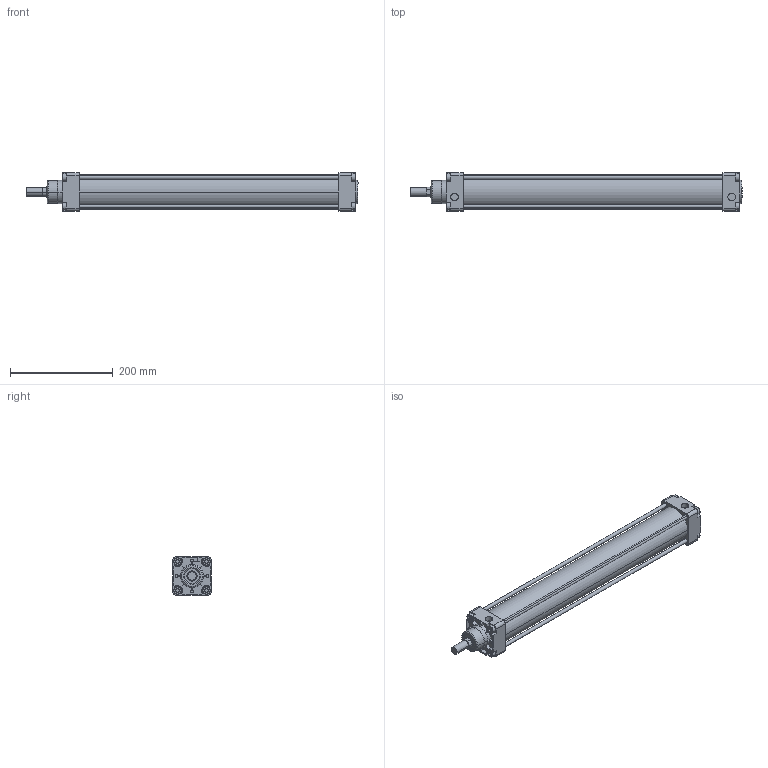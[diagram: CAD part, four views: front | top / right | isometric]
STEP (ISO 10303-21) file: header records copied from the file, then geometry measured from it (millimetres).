
FILE_DESCRIPTION(('CATIA V5 STEP Exchange'),'2;1');
FILE_NAME('D:\stp file for catalog\PNC\63\pnc 63-20-450.stp','2015-06-16T06:04:13+00:00',('none'),('none'),'Version 5-6 Release 2012','CATIA V5 STEP AP203','none');
FILE_SCHEMA(('CONFIG_CONTROL_DESIGN'));
Length unit declared in the file: millimetre
Products named in the file (1): pnc 63-20-450-00
Assembly tree (2 placements, depth 2):
  pnc 63-20-450-00
    #58
    #15151
Bounding box: 645.5 x 74.5 x 74.5 mm (x, y, z)
Volume: 960062.7 mm3; surface area: 372181 mm2
Topology: 6 solids, 6 shells, 572 faces, 1446 edges, 930 vertices
Faces by surface type: plane 356, cylinder 154, torus 26, cone 20, extrusion 16
Entity records: 15575 total; most frequent: CARTESIAN_POINT 3056, ORIENTED_EDGE 2892, DIRECTION 1926, EDGE_CURVE 1446, VECTOR 930, VERTEX_POINT 930, LINE 914, AXIS2_PLACEMENT_3D 732
